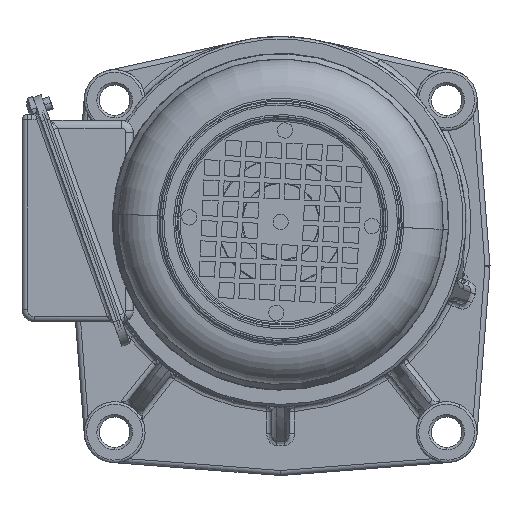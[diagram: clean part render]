
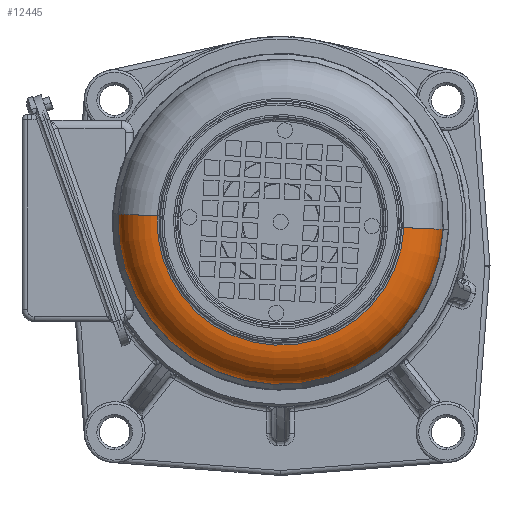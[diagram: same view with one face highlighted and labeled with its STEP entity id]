
A CAD part, front view. The second image highlights one B-rep face of the part: STEP entity #12445.
In plain terms, the highlighted toroidal (fillet/blend) face has major radius 48.673 mm and minor radius 15.331 mm.
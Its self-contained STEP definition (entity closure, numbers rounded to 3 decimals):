
#174 = CARTESIAN_POINT ( 'NONE',  ( 0.006, 0., 0. ) ) ;
#1297 = CARTESIAN_POINT ( 'NONE',  ( -15.325, 0., 48.673 ) ) ;
#2455 = CARTESIAN_POINT ( 'NONE',  ( 0.006, 0., -48.659 ) ) ;
#2816 = AXIS2_PLACEMENT_3D ( 'NONE', #12057, #26192, #40317 ) ;
#3374 = AXIS2_PLACEMENT_3D ( 'NONE', #1297, #15440, #29591 ) ;
#5275 = EDGE_CURVE ( 'NONE', #25626, #13552, #22834, .T. ) ;
#7185 = CARTESIAN_POINT ( 'NONE',  ( -15.325, 0., 0. ) ) ;
#7439 = AXIS2_PLACEMENT_3D ( 'NONE', #7185, #21329, #35470 ) ;
#7895 = VERTEX_POINT ( 'NONE', #8758 ) ;
#8758 = CARTESIAN_POINT ( 'NONE',  ( -15., 0., 64. ) ) ;
#10238 = AXIS2_PLACEMENT_3D ( 'NONE', #174, #14337, #28469 ) ;
#10673 = FACE_OUTER_BOUND ( 'NONE', #19735, .T. ) ;
#11777 = EDGE_CURVE ( 'NONE', #25626, #29325, #30229, .T. ) ;
#12057 = CARTESIAN_POINT ( 'NONE',  ( -15.325, 0., -48.673 ) ) ;
#12445 = ADVANCED_FACE ( 'NONE', ( #10673 ), #27429, .T. ) ;
#13552 = VERTEX_POINT ( 'NONE', #44759 ) ;
#13910 = CARTESIAN_POINT ( 'NONE',  ( 0.006, 0., 48.659 ) ) ;
#14046 = DIRECTION ( 'NONE',  ( 0., 0., 1. ) ) ;
#14337 = DIRECTION ( 'NONE',  ( -1., 0., 0. ) ) ;
#14736 = EDGE_CURVE ( 'NONE', #29325, #7895, #23372, .T. ) ;
#15440 = DIRECTION ( 'NONE',  ( 0., -1., 0. ) ) ;
#19735 = EDGE_LOOP ( 'NONE', ( #33797, #33512, #39303, #38576 ) ) ;
#21329 = DIRECTION ( 'NONE',  ( -1., 0., 0. ) ) ;
#22834 = CIRCLE ( 'NONE', #2816, 15.331 ) ;
#23372 = CIRCLE ( 'NONE', #3374, 15.331 ) ;
#25570 = AXIS2_PLACEMENT_3D ( 'NONE', #31674, #45754, #14046 ) ;
#25626 = VERTEX_POINT ( 'NONE', #2455 ) ;
#26192 = DIRECTION ( 'NONE',  ( 0., 1., 0. ) ) ;
#27429 = TOROIDAL_SURFACE ( 'NONE', #7439, 48.673, 15.331 ) ;
#28469 = DIRECTION ( 'NONE',  ( 0., 0., 1. ) ) ;
#29325 = VERTEX_POINT ( 'NONE', #13910 ) ;
#29591 = DIRECTION ( 'NONE',  ( 0., 0., -1. ) ) ;
#30229 = CIRCLE ( 'NONE', #10238, 48.659 ) ;
#31674 = CARTESIAN_POINT ( 'NONE',  ( -15., 0., 0. ) ) ;
#33512 = ORIENTED_EDGE ( 'NONE', *, *, #11777, .T. ) ;
#33797 = ORIENTED_EDGE ( 'NONE', *, *, #5275, .F. ) ;
#35470 = DIRECTION ( 'NONE',  ( 0., 0., 1. ) ) ;
#38576 = ORIENTED_EDGE ( 'NONE', *, *, #45190, .F. ) ;
#39303 = ORIENTED_EDGE ( 'NONE', *, *, #14736, .T. ) ;
#40317 = DIRECTION ( 'NONE',  ( 0., 0., 1. ) ) ;
#44759 = CARTESIAN_POINT ( 'NONE',  ( -15., 0., -64. ) ) ;
#45190 = EDGE_CURVE ( 'NONE', #13552, #7895, #45529, .T. ) ;
#45529 = CIRCLE ( 'NONE', #25570, 64. ) ;
#45754 = DIRECTION ( 'NONE',  ( -1., 0., 0. ) ) ;
